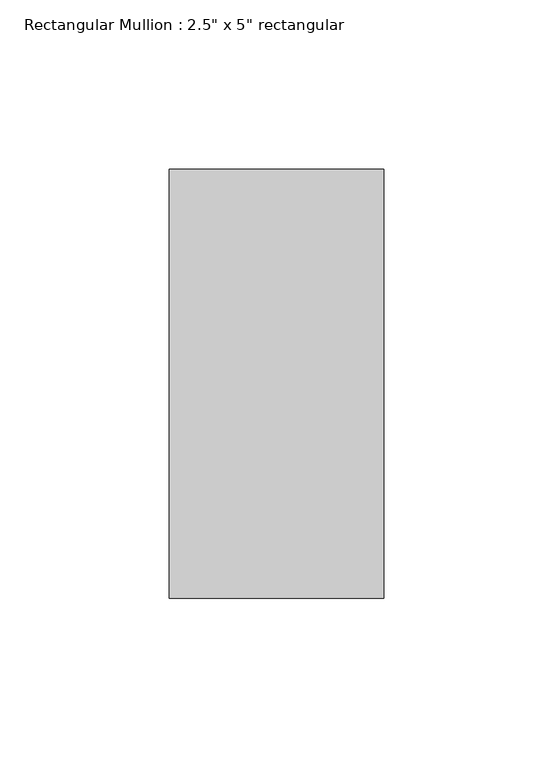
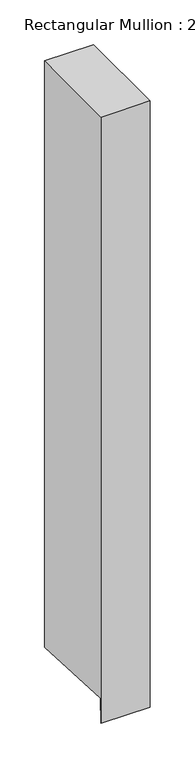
"""IFC4 building model written with IfcOpenShell, lengths in millimetres: member geometry."""

from ifc_helpers import new_model, si_unit, frame, origin, place, context, project, spatial, polyline, outline, extrude, source, transform, mapped, element, save


def member_540e4832(model_context):
    return source(origin(), model_context, "Body", "SweptSolid", [
        extrude(outline(polyline([(-63.5, 0.0), (63.5, 0.0), (63.5, -802.0924555), (-61.8420562, -795.8498601), (-63.5, -829.1389119), (-63.5, 0.0)])), frame((-63.5, 0.0, 0.0), z_axis=(1.0, 0.0, 0.0), x_axis=(0.0, 1.0, 0.0)), (0.0, 0.0, 1.0), 63.5),
    ])


if __name__ == "__main__":
    model = new_model("IFC4")
    model_context = context("Model", 3, world=origin())
    ifc_project = project(units=[si_unit("LENGTHUNIT", "METRE", prefix="MILLI")], contexts=[model_context])
    site = spatial("IfcSite", under=ifc_project)
    building = spatial("IfcBuilding", under=site)
    placement = place(None, origin())
    member_shape = member_540e4832(model_context)
    element("IfcMember", 1, ObjectType="Rectangular Mullion : 2.5\" x 5\" rectangular", at=placement, inside=building, context=model_context, shape_type="MappedRepresentation", body=[
        mapped(member_shape, transform((0.0, 0.0, 0.0), x_axis=(1.0, 0.0, 0.0), y_axis=(0.0, 1.0, 0.0), z_axis=(0.0, 0.0, 1.0))),
    ])
    save(model, "model.ifc")
